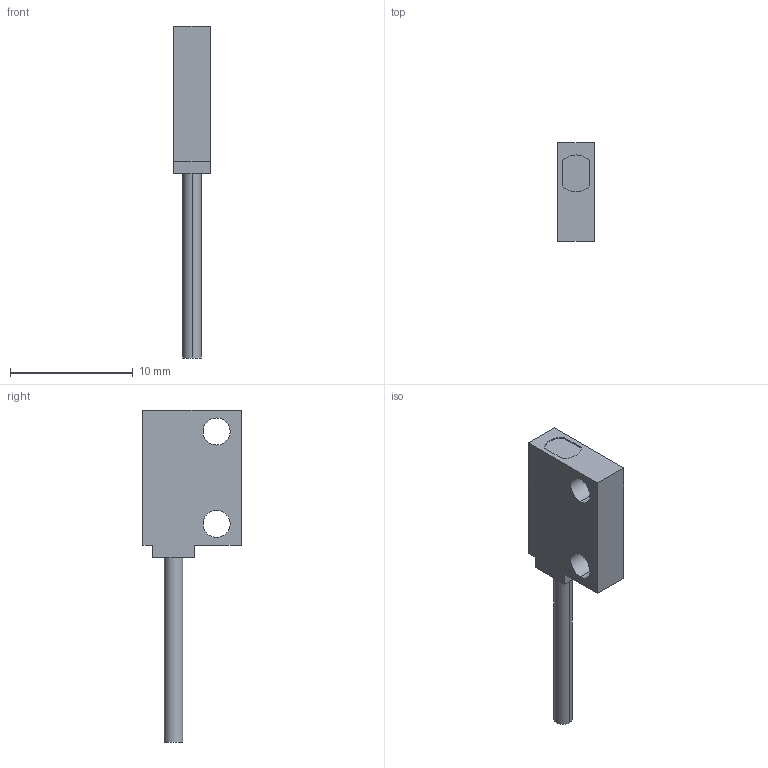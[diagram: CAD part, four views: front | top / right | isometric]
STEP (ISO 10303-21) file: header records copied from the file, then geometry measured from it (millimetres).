
FILE_DESCRIPTION (( 'STEP AP203' ), '1' );
FILE_NAME ('FT-Z8H.STEP', '2005-09-08T04:18:09', ( '' ), ( '' ), 'SwSTEP 2.0', 'SolidWorks 2004073', '' );
FILE_SCHEMA (( 'CONFIG_CONTROL_DESIGN' ));
Length unit declared in the file: millimetre
Products named in the file (1): FT-Z8H
Bounding box: 3 x 8 x 27 mm (x, y, z)
Volume: 277.3 mm3; surface area: 400.7 mm2
Topology: 1 solids, 1 shells, 23 faces, 57 edges, 38 vertices
Faces by surface type: plane 14, cylinder 9
Entity records: 774 total; most frequent: DIRECTION 123, CARTESIAN_POINT 119, ORIENTED_EDGE 114, EDGE_CURVE 57, AXIS2_PLACEMENT_3D 42, VECTOR 39, LINE 39, VERTEX_POINT 38
